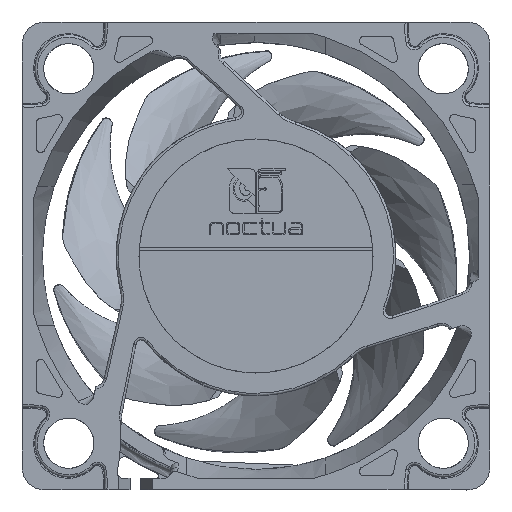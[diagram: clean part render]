
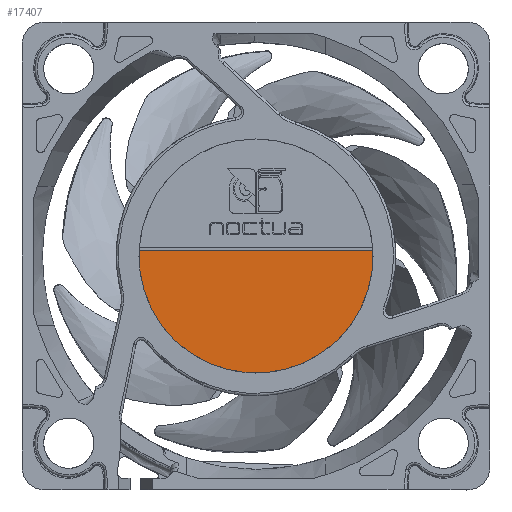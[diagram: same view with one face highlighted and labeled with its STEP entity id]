
A CAD part, front view. The second image highlights one B-rep face of the part: STEP entity #17407.
In plain terms, the highlighted planar face has unit normal (0, -1, 0) as drawn and (0, 0, 1) by its records, which use the part's own axes.
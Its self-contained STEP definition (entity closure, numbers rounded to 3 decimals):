
#314=CIRCLE('',#19525,10.);
#727=PLANE('',#19549);
#1418=LINE('',#45814,#2250);
#2250=VECTOR('',#22069,1000.);
#7581=ORIENTED_EDGE('',*,*,#10598,.F.);
#7582=ORIENTED_EDGE('',*,*,#10703,.T.);
#10598=EDGE_CURVE('',#12527,#12528,#314,.T.);
#10703=EDGE_CURVE('',#12527,#12528,#1418,.T.);
#12527=VERTEX_POINT('',#45509);
#12528=VERTEX_POINT('',#45510);
#15301=EDGE_LOOP('',(#7581,#7582));
#16342=FACE_BOUND('',#15301,.T.);
#17407=ADVANCED_FACE('',(#16342),#727,.F.);
#19525=AXIS2_PLACEMENT_3D('',#45508,#21952,#21953);
#19549=AXIS2_PLACEMENT_3D('',#45813,#22067,#22068);
#21952=DIRECTION('',(0.,0.,-1.));
#21953=DIRECTION('',(1.,0.,0.));
#22067=DIRECTION('',(0.,0.,-1.));
#22068=DIRECTION('',(-1.,0.,0.));
#22069=DIRECTION('',(-1.,0.,0.));
#45508=CARTESIAN_POINT('',(0.,0.,0.5));
#45509=CARTESIAN_POINT('',(9.987,0.5,0.5));
#45510=CARTESIAN_POINT('',(-9.987,0.5,0.5));
#45813=CARTESIAN_POINT('',(0.,0.,0.5));
#45814=CARTESIAN_POINT('',(-9.987,0.5,0.5));
